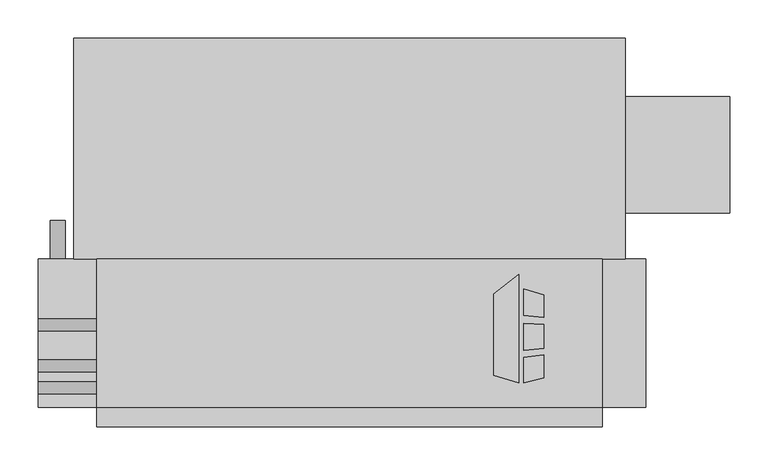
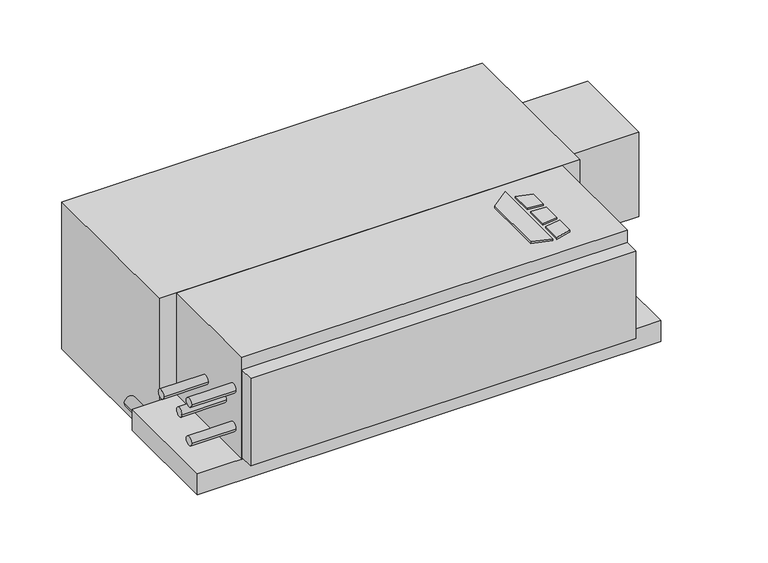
"""IFC4 building model written with IfcOpenShell, lengths in millimetres: proxy geometry, Concealed_Horizontal_Fan_Coil_Unit_With_Plenum_-_CPY_-_IEC_-_4-Pipe_LH_2022 : Size 04 - 277v/60Hz/1Ph - 4/1 Coil."""

from ifc_helpers import new_model, si_unit, point, frame, frame_2d, origin, origin_with_axes, place, context, project, spatial, polyline, circle_curve, trimmed, segment, composite_curve, outline, extrude, source, transform, mapped, element, save


def mechanical_equipment_0cc6892a(model_context):
    return source(origin(), model_context, "Body", "SweptSolid", [
        extrude(outline(polyline([(341.0019761, -186.6953476), (373.5602728, -161.2580184), (373.5602728, -303.2125), (341.0019761, -292.9929201), (341.0019761, -186.6953476)])), origin_with_axes(), (0.0, 0.0, 1.0), 3.175),
        extrude(outline(polyline([(380.3186058, -214.567352), (380.3186058, -180.0874379), (406.4, -188.2740115), (406.4, -217.7697446), (380.3186058, -214.567352)])), origin_with_axes(), (0.0, 0.0, 1.0), 3.175),
        extrude(outline(polyline([(406.4, -296.2240115), (380.3186058, -303.2125), (380.3186058, -269.9911996), (406.4, -266.4493564), (406.4, -296.2240115)])), origin_with_axes(), (0.0, 0.0, 1.0), 3.175),
        extrude(outline(polyline([(406.4, -226.8513277), (406.4, -258.101483), (380.3186058, -260.842748), (380.3186058, -224.9850378), (406.4, -226.8513277)])), origin_with_axes(), (0.0, 0.0, 1.0), 3.175),
        extrude(outline(composite_curve([segment(trimmed(circle_curve(frame_2d((-209.55, -228.6)), 9.525), [point((-209.55, -238.125))], [point((-209.55, -219.075))], False, "CARTESIAN"), True, "CONTINUOUS"), segment(trimmed(circle_curve(frame_2d((-209.55, -228.6)), 9.525), [point((-209.55, -219.075))], [point((-209.55, -238.125))], False, "CARTESIAN"), True, "CONTINUOUS")], self_intersect=False)), frame((0.0, -141.2875, 0.0), z_axis=(0.0, 1.0, 0.0), x_axis=(0.0, 0.0, 1.0)), (0.0, 0.0, 1.0), 50.8),
        extrude(outline(composite_curve([segment(trimmed(circle_curve(frame_2d((-309.5625, -69.85)), 7.9375), [point((-301.625, -69.85))], [point((-317.5, -69.85))], False, "CARTESIAN"), True, "CONTINUOUS"), segment(trimmed(circle_curve(frame_2d((-309.5625, -69.85)), 7.9375), [point((-317.5, -69.85))], [point((-301.625, -69.85))], False, "CARTESIAN"), True, "CONTINUOUS")], self_intersect=False)), frame((-254.0, 0.0, 0.0), z_axis=(1.0, 0.0, 0.0), x_axis=(0.0, 1.0, 0.0)), (0.0, 0.0, 1.0), 76.2),
        extrude(outline(composite_curve([segment(trimmed(circle_curve(frame_2d((-309.5625, -139.7)), 7.9375), [point((-301.625, -139.7))], [point((-317.5, -139.7))], False, "CARTESIAN"), True, "CONTINUOUS"), segment(trimmed(circle_curve(frame_2d((-309.5625, -139.7)), 7.9375), [point((-317.5, -139.7))], [point((-301.625, -139.7))], False, "CARTESIAN"), True, "CONTINUOUS")], self_intersect=False)), frame((-254.0, 0.0, 0.0), z_axis=(1.0, 0.0, 0.0), x_axis=(0.0, 1.0, 0.0)), (0.0, 0.0, 1.0), 76.2),
        extrude(outline(composite_curve([segment(trimmed(circle_curve(frame_2d((-227.0125, -104.775)), 7.9375), [point((-219.075, -104.775))], [point((-234.95, -104.775))], False, "CARTESIAN"), True, "CONTINUOUS"), segment(trimmed(circle_curve(frame_2d((-227.0125, -104.775)), 7.9375), [point((-234.95, -104.775))], [point((-219.075, -104.775))], False, "CARTESIAN"), True, "CONTINUOUS")], self_intersect=False)), frame((-254.0, 0.0, 0.0), z_axis=(1.0, 0.0, 0.0), x_axis=(0.0, 1.0, 0.0)), (0.0, 0.0, 1.0), 76.2),
        extrude(outline(composite_curve([segment(trimmed(circle_curve(frame_2d((-280.9875, -104.775)), 7.9375), [point((-273.05, -104.775))], [point((-288.925, -104.775))], False, "CARTESIAN"), True, "CONTINUOUS"), segment(trimmed(circle_curve(frame_2d((-280.9875, -104.775)), 7.9375), [point((-288.925, -104.775))], [point((-273.05, -104.775))], False, "CARTESIAN"), True, "CONTINUOUS")], self_intersect=False)), frame((-254.0, 0.0, 0.0), z_axis=(1.0, 0.0, 0.0), x_axis=(0.0, 1.0, 0.0)), (0.0, 0.0, 1.0), 76.2),
        extrude(outline(polyline([(482.6, -334.9625), (482.6, -360.3625), (-177.8, -360.3625), (-177.8, -334.9625), (482.6, -334.9625)])), frame((0.0, 0.0, -180.975), z_axis=(0.0, 0.0, 1.0), x_axis=(1.0, 0.0, 0.0)), (0.0, 0.0, 1.0), 158.75),
        extrude(outline(polyline([(482.6, -334.9625), (-177.8, -334.9625), (-177.8, -141.2875), (482.6, -141.2875), (482.6, -334.9625)])), frame((0.0, 0.0, -184.15), z_axis=(0.0, 0.0, 1.0), x_axis=(1.0, 0.0, 0.0)), (0.0, 0.0, 1.0), 184.15),
        extrude(outline(polyline([(539.75, -141.2875), (539.75, -334.9625), (-254.0, -334.9625), (-254.0, -141.2875), (539.75, -141.2875)])), frame((0.0, 0.0, -222.25), z_axis=(0.0, 0.0, 1.0), x_axis=(1.0, 0.0, 0.0)), (0.0, 0.0, 1.0), 38.1),
        extrude(outline(polyline([(649.2875, 71.4375), (649.2875, -80.9625), (512.7625, -80.9625), (512.7625, 71.4375), (649.2875, 71.4375)])), frame((0.0, 0.0, -187.325), z_axis=(0.0, 0.0, 1.0), x_axis=(1.0, 0.0, 0.0)), (0.0, 0.0, 1.0), 152.4),
        extrude(outline(polyline([(-207.9625, 147.6375), (512.7625, 147.6375), (512.7625, -141.2875), (-207.9625, -141.2875), (-207.9625, 147.6375)])), frame((0.0, 0.0, -266.7), z_axis=(0.0, 0.0, 1.0), x_axis=(1.0, 0.0, 0.0)), (0.0, 0.0, 1.0), 266.7),
    ])


if __name__ == "__main__":
    model = new_model("IFC4")
    model_context = context("Model", 3, world=origin())
    ifc_project = project(units=[si_unit("LENGTHUNIT", "METRE", prefix="MILLI")], contexts=[model_context])
    site = spatial("IfcSite", under=ifc_project)
    building = spatial("IfcBuilding", under=site)
    placement = place(None, origin())
    mechanical_equipment_shape = mechanical_equipment_0cc6892a(model_context)
    element("IfcBuildingElementProxy", 1, Name="Concealed_Horizontal_Fan_Coil_Unit_With_Plenum_-_CPY_-_IEC_-_4-Pipe_LH_2022 : Size 04 - 277v/60Hz/1Ph - 4/1 Coil", ObjectType="Concealed_Horizontal_Fan_Coil_Unit_With_Plenum_-_CPY_-_IEC_-_4-Pipe_LH_2022 : Size 04 - 277v/60Hz/1Ph - 4/1 Coil", at=placement, inside=building, context=model_context, shape_type="MappedRepresentation", body=[
        mapped(mechanical_equipment_shape, transform((0.0, 0.0, 0.0), x_axis=(1.0, 0.0, 0.0), y_axis=(0.0, 1.0, 0.0), z_axis=(0.0, 0.0, 1.0))),
    ])
    save(model, "model.ifc")
